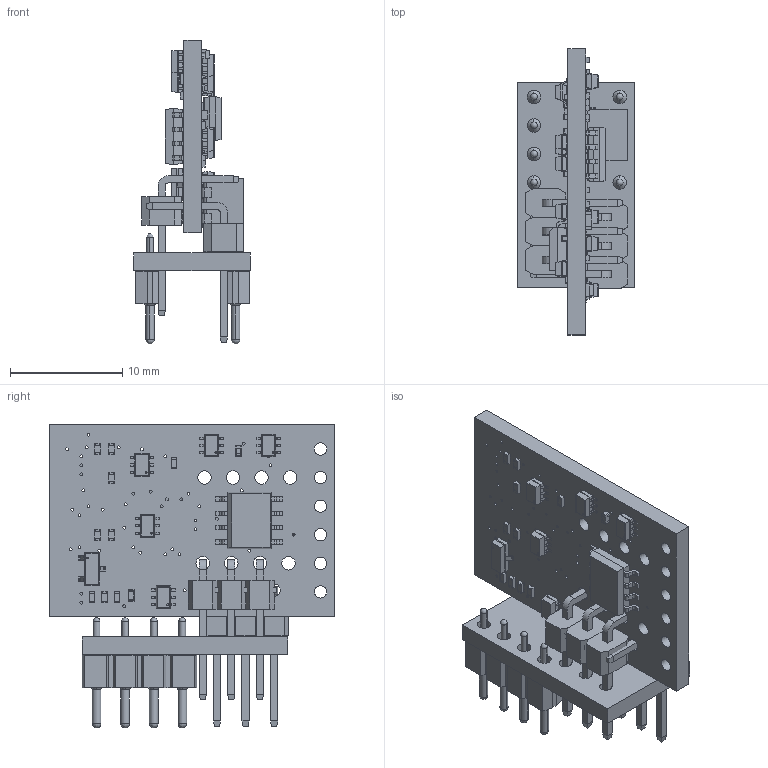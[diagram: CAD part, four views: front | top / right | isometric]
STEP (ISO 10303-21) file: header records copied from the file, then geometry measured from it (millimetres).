
FILE_DESCRIPTION(('for SolidWorks'),'2;1');
FILE_NAME('C:\www\opencart-4.1.0.3\ImagesForSite\3D_models\Bel_amp_wide_V_202160806.step','2026-09-23T20:13:20',('B'),(''), 'Open CASCADE STEP processor 6.6','DipTrace','Unknown');
FILE_SCHEMA(('AUTOMOTIVE_DESIGN { 1 0 10303 214 1 1 1 1 }'));
Length unit declared in the file: millimetre
Products named in the file (4): PCB_Bel_amp_wide_V_202160806; Board_Bel_amp_wide_V_202160806; preci-dip_800-10-004-10-002101; Bel_amp_wide_vert-mount_202160806
Assembly tree (4 placements, depth 2):
  PCB_Bel_amp_wide_V_202160806
    Board_Bel_amp_wide_V_202160806
    preci-dip_800-10-004-10-002101  x2
    Bel_amp_wide_vert-mount_202160806
Bounding box: 10.32 x 25.4 x 27.02 mm (x, y, z)
Volume: 434.3 mm3; surface area: 3157.8 mm2
Topology: 3 solids, 237 shells, 3484 faces, 8647 edges, 5628 vertices
Faces by surface type: plane 2840, cylinder 561, cone 37, sphere 28, torus 17, bspline 1
Full cylindrical faces by diameter (mm): 0.156 x12, 0.163 x1, 0.254 x2, 0.41 x2, 1.1 x15, 1.2 x16
Entity records: 124025 total; most frequent: CARTESIAN_POINT 17381, ORIENTED_EDGE 16734, DIRECTION 16164, EDGE_CURVE 8367, LINE 7314, VECTOR 7314, VERTEX_POINT 5472, AXIS2_PLACEMENT_3D 4425
